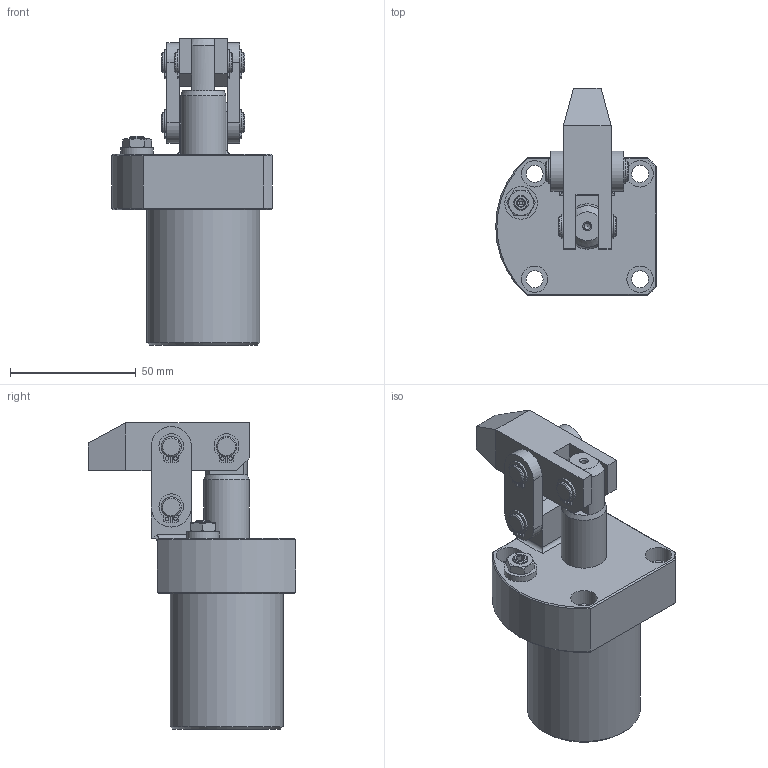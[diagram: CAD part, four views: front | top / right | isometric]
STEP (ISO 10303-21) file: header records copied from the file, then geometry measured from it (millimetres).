
FILE_DESCRIPTION(/* description */ ('Unknown'),/* implementation_level */ '2;1');
FILE_NAME(/* name */ 'HLC-FCM25-L-A',/* time_stamp */ '2022-11-23T03:54:20+08:00',/* author */ ('Unknown'),/* organization */ ('Unknown'),/* preprocessor_version */ 'ST-DEVELOPER v16.7',/* originating_system */ 'DEX',/* authorisation */ $);
FILE_SCHEMA (('AUTOMOTIVE_DESIGN {1 0 10303 214 3 1 1}'));
Length unit declared in the file: millimetre
Products named in the file (8): HLC-FCM25-L-A; HLC-FCM25-L-CYLINDER; HLC-2502-AXLE CENTRE; HLC-25-A; HLC-FCM25-墊; HLC-FCM25-PINªø; HLC-FCM25-PINµu; HLC-FCM25-C扣
Assembly tree (14 placements, depth 2):
  HLC-FCM25-L-A
    HLC-FCM25-L-CYLINDER
    HLC-2502-AXLE CENTRE
    HLC-25-A
    HLC-FCM25-墊  x2
    HLC-FCM25-PINªø  x2
    HLC-FCM25-PINµu
    HLC-FCM25-C扣  x6
Bounding box: 64 x 82.5 x 122 mm (x, y, z)
Volume: 181526.3 mm3; surface area: 45995.1 mm2
Topology: 14 solids, 14 shells, 298 faces, 693 edges, 454 vertices
Faces by surface type: plane 128, cylinder 125, cone 31, bspline 12, torus 2
Full cylindrical faces by diameter (mm): 1.4 x12, 2.5 x2, 2.6 x1, 4.1 x2, 6 x1, 6.8 x4, 7.5 x6, 8 x18, 9 x2, 10.5 x4, 13 x1, 18 x2, 24.6 x1, 25 x1, 45 x1
Entity records: 5509 total; most frequent: CARTESIAN_POINT 1197, DIRECTION 850, ORIENTED_EDGE 728, EDGE_CURVE 364, AXIS2_PLACEMENT_3D 356, FACE_BOUND 309, EDGE_LOOP 308, VERTEX_POINT 267
